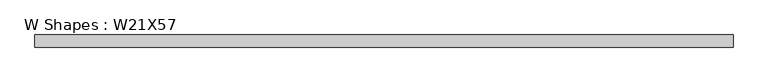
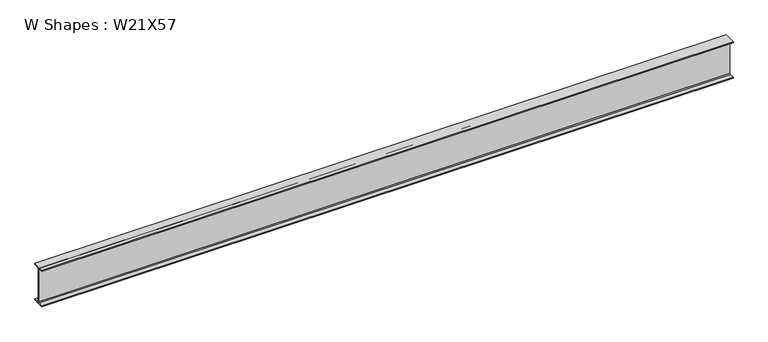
"""IFC4 building model written with IfcOpenShell, lengths in millimetres: beam geometry, W Shapes : W21X57."""

import ifcopenshell
import ifcopenshell.guid

model = None  # the IFC model being written
_history = None  # IfcOwnerHistory: only IFC2X3 demands one
_inside = {}  # id of a spatial element -> (the spatial element, [elements in it])
_under = {}  # id of a project, library or spatial element -> (it, [spatial elements below it])
_declared = {}  # id of a project -> (the project, [libraries it declares])
_typed = {}  # id of a type object -> (the type object, [elements of that type])
_made_of = {}  # id of a material, layer set ... -> (it, [elements and type objects made of it])


def new_model(schema):
    """Start an empty IFC model of exactly this schema.

    Asked for "IFC4X3", IfcOpenShell would pick the latest addendum, in which some entities
    have other attributes; the version numbers below select the first issue.
    IFC2X3 requires an IfcOwnerHistory on every rooted entity: one is made here for all.
    """
    global model, _history
    if schema == "IFC4X3":
        model = ifcopenshell.file(schema_version=(4, 3, 0, 0))
    else:
        model = ifcopenshell.file(schema=schema)
    _inside.clear()
    _under.clear()
    _declared.clear()
    _typed.clear()
    _made_of.clear()
    _history = None
    if model.schema == "IFC2X3":
        org = make("IfcOrganization", Name="unknown")
        user = make(
            "IfcPersonAndOrganization",
            ThePerson=make("IfcPerson", FamilyName="unknown"),
            TheOrganization=org,
        )
        app = make(
            "IfcApplication",
            ApplicationDeveloper=org,
            Version="unknown",
            ApplicationFullName="unknown",
            ApplicationIdentifier="unknown",
        )
        _history = make(
            "IfcOwnerHistory",
            OwningUser=user,
            OwningApplication=app,
            ChangeAction="ADDED",
            CreationDate=0,
        )
    return model


def make(cls, **values):
    """One entity of the class cls with the attributes given. An attribute that is None is left unset."""
    return model.create_entity(
        cls, **{name: value for name, value in values.items() if value is not None}
    )


def rooted(cls, **values):
    """An entity with a GlobalId (a new one), such as an element, a storey or a relation."""
    return make(cls, GlobalId=ifcopenshell.guid.new(), OwnerHistory=_history, **values)


def si_unit(unit_type, name, prefix=None):
    """IfcSIUnit, for example si_unit("LENGTHUNIT", "METRE", prefix="MILLI")."""
    return make("IfcSIUnit", UnitType=unit_type, Prefix=prefix, Name=name)


def assignment(units):
    """IfcUnitAssignment: the units of a project."""
    return None if units is None else make("IfcUnitAssignment", Units=units)


def point(xyz):
    """IfcCartesianPoint."""
    return None if xyz is None else make("IfcCartesianPoint", Coordinates=xyz)


def direction(xyz):
    """IfcDirection."""
    return None if xyz is None else make("IfcDirection", DirectionRatios=xyz)


def frame(location, z_axis=None, x_axis=None):
    """IfcAxis2Placement3D, a coordinate frame: its origin and axes. An axis left out is left unset."""
    return make(
        "IfcAxis2Placement3D",
        Location=point(location),
        Axis=direction(z_axis),
        RefDirection=direction(x_axis),
    )


def frame_2d(location, x_axis=None):
    """IfcAxis2Placement2D, a coordinate frame in the plane: its origin and x axis."""
    return make(
        "IfcAxis2Placement2D", Location=point(location), RefDirection=direction(x_axis)
    )


def origin():
    """The frame at (0, 0, 0) with its axes left unset."""
    return frame((0.0, 0.0, 0.0))


def place(relative_to, where):
    """IfcLocalPlacement: puts the frame where relative to a parent placement (None: the world)."""
    return make(
        "IfcLocalPlacement", PlacementRelTo=relative_to, RelativePlacement=where
    )


def context(
    kind, dimensions, precision=None, world=None, true_north=None, identifier=None
):
    """IfcGeometricRepresentationContext, for example the 3D "Model" context."""
    return make(
        "IfcGeometricRepresentationContext",
        ContextIdentifier=identifier,
        ContextType=kind,
        CoordinateSpaceDimension=dimensions,
        Precision=precision,
        WorldCoordinateSystem=world,
        TrueNorth=true_north,
    )


def project(units=None, contexts=None):
    """IfcProject with its units and contexts."""
    return rooted(
        "IfcProject",
        Name="project",
        RepresentationContexts=contexts,
        UnitsInContext=assignment(units),
    )


def spatial(cls, under=None, at=None, **own):
    """A site, building, storey or space (cls), placed at a placement, below another one or the project."""
    s = rooted(cls, ObjectPlacement=at, **own)
    if under is not None:
        _under.setdefault(under.id(), (under, []))[1].append(s)
    return s


def polyline(points):
    """IfcPolyline through the points."""
    return make("IfcPolyline", Points=[point(p) for p in points])


def circle_curve(where, radius):
    """IfcCircle in the frame where."""
    return make("IfcCircle", Position=where, Radius=radius)


def trimmed(basis, trim1, trim2, sense, master):
    """IfcTrimmedCurve: the piece of a basis curve between two trims."""
    return make(
        "IfcTrimmedCurve",
        BasisCurve=basis,
        Trim1=trim1,
        Trim2=trim2,
        SenseAgreement=sense,
        MasterRepresentation=master,
    )


def segment(curve, same_sense, transition):
    """IfcCompositeCurveSegment."""
    return make(
        "IfcCompositeCurveSegment",
        Transition=transition,
        SameSense=same_sense,
        ParentCurve=curve,
    )


def composite_curve(segments, self_intersect=None):
    """IfcCompositeCurve: segments joined end to end."""
    return make("IfcCompositeCurve", Segments=segments, SelfIntersect=self_intersect)


def outline(outer, holes=None, kind="AREA"):
    """IfcArbitraryClosedProfileDef: a profile drawn as a closed curve; with holes, ...WithVoids."""
    if holes is None:
        return make("IfcArbitraryClosedProfileDef", ProfileType=kind, OuterCurve=outer)
    return make(
        "IfcArbitraryProfileDefWithVoids",
        ProfileType=kind,
        OuterCurve=outer,
        InnerCurves=holes,
    )


def extrude(swept, where, along, depth):
    """IfcExtrudedAreaSolid: the profile swept, set in the frame where, extruded along a direction by depth."""
    return make(
        "IfcExtrudedAreaSolid",
        SweptArea=swept,
        Position=where,
        ExtrudedDirection=direction(along),
        Depth=depth,
    )


def shape(context_of_items, identifier, shape_type, items):
    """IfcShapeRepresentation: the items that make up one representation, for example the "Body"."""
    return make(
        "IfcShapeRepresentation",
        ContextOfItems=context_of_items,
        RepresentationIdentifier=identifier,
        RepresentationType=shape_type,
        Items=items,
    )


def source(mapping_origin, context_of_items, identifier, shape_type, items):
    """IfcRepresentationMap: a shape defined once, which mapped items show again and again."""
    return make(
        "IfcRepresentationMap",
        MappingOrigin=mapping_origin,
        MappedRepresentation=shape(context_of_items, identifier, shape_type, items),
    )


def transform(
    local_origin,
    x_axis=None,
    y_axis=None,
    z_axis=None,
    scale=None,
    scale2=None,
    scale3=None,
    uniform=True,
):
    """IfcCartesianTransformationOperator3D, or its non-uniform kind. x_axis, y_axis, z_axis: its Axis1, 2, 3."""
    if uniform:
        return make(
            "IfcCartesianTransformationOperator3D",
            Axis1=direction(x_axis),
            Axis2=direction(y_axis),
            LocalOrigin=point(local_origin),
            Scale=scale,
            Axis3=direction(z_axis),
        )
    return make(
        "IfcCartesianTransformationOperator3DnonUniform",
        Axis1=direction(x_axis),
        Axis2=direction(y_axis),
        LocalOrigin=point(local_origin),
        Scale=scale,
        Axis3=direction(z_axis),
        Scale2=scale2,
        Scale3=scale3,
    )


def mapped(mapping_source, mapping_target):
    """IfcMappedItem: shows the shape of a source again, moved by a transform."""
    return make(
        "IfcMappedItem", MappingSource=mapping_source, MappingTarget=mapping_target
    )


def made_of(thing, what):
    """Note that an element or type object is made of a material, layer set ...; save() writes the relation."""
    if what is not None:
        _made_of.setdefault(what.id(), (what, []))[1].append(thing)
    return thing


def element(
    cls,
    number,
    at=None,
    inside=None,
    cuts=None,
    type_object=None,
    material=None,
    context=None,
    identifier="Body",
    shape_type=None,
    held_by="IfcProductDefinitionShape",
    body=None,
    shapes=None,
    **own,
):
    """One element of the class cls, such as IfcWall. Its Tag is "e" and its number.

    at: its placement. inside: the storey or other place that contains it. cuts: it is an
    opening in that element (IfcRelVoidsElement). A single representation is given by context,
    identifier, shape_type and body (its items); several are given by shapes. held_by: the class
    of the entity that holds the representations. save() writes the other relations.
    """
    e = rooted(cls, Tag="e%d" % number, ObjectPlacement=at, **own)
    if body is not None:
        shapes = [shape(context, identifier, shape_type, body)]
    if shapes is not None:
        e.Representation = make(held_by, Representations=shapes)
    if inside is not None:
        _inside.setdefault(inside.id(), (inside, []))[1].append(e)
    if cuts is not None:
        rooted(
            "IfcRelVoidsElement", RelatingBuildingElement=cuts, RelatedOpeningElement=e
        )
    if type_object is not None:
        _typed.setdefault(type_object.id(), (type_object, []))[1].append(e)
    return made_of(e, material)


def aggregate(whole, parts):
    """IfcRelAggregates: a whole, such as a stair, and the parts it consists of."""
    return rooted("IfcRelAggregates", RelatingObject=whole, RelatedObjects=parts)


def save(model, path):
    """Write the relations noted so far, then the file.

    IfcRelAggregates (storeys below a building ...), IfcRelContainedInSpatialStructure (elements
    in a storey), IfcRelDefinesByType, IfcRelAssociatesMaterial and IfcRelDeclares: one each for
    every whole, place, type object, material and project.
    """
    for whole, parts in _under.values():
        aggregate(whole, parts)
    for where, things in _inside.values():
        rooted(
            "IfcRelContainedInSpatialStructure",
            RelatedElements=things,
            RelatingStructure=where,
        )
    for kind, things in _typed.values():
        rooted("IfcRelDefinesByType", RelatedObjects=things, RelatingType=kind)
    for what, things in _made_of.values():
        rooted("IfcRelAssociatesMaterial", RelatedObjects=things, RelatingMaterial=what)
    for by, libraries in _declared.values():
        rooted("IfcRelDeclares", RelatingContext=by, RelatedDefinitions=libraries)
    model.write(path)


def w_shapes_w21x57_d6fd00a5(model_context):
    return source(origin(), model_context, "Body", "SweptSolid", [
        extrude(outline(composite_curve([segment(polyline([(83.312, -251.46), (83.312, -267.97), (-83.312, -267.97), (-83.312, -251.46), (-17.907, -251.46)]), True, "CONTINUOUS"), segment(trimmed(circle_curve(frame_2d((-17.907, -238.76)), 12.7), [point((-17.907, -251.46))], [point((-5.207, -238.76))], True, "CARTESIAN"), True, "CONTINUOUS"), segment(polyline([(-5.207, -238.76), (-5.207, 238.76)]), True, "CONTINUOUS"), segment(trimmed(circle_curve(frame_2d((-17.907, 238.76)), 12.7), [point((-5.207, 238.76))], [point((-17.907, 251.46))], True, "CARTESIAN"), True, "CONTINUOUS"), segment(polyline([(-17.907, 251.46), (-83.312, 251.46), (-83.312, 267.97), (83.312, 267.97), (83.312, 251.46), (17.907, 251.46)]), True, "CONTINUOUS"), segment(trimmed(circle_curve(frame_2d((17.907, 238.76)), 12.7), [point((17.907, 251.46))], [point((5.207, 238.76))], True, "CARTESIAN"), True, "CONTINUOUS"), segment(polyline([(5.207, 238.76), (5.207, -238.76)]), True, "CONTINUOUS"), segment(trimmed(circle_curve(frame_2d((17.907, -238.76)), 12.7), [point((5.207, -238.76))], [point((17.907, -251.46))], True, "CARTESIAN"), True, "CONTINUOUS"), segment(polyline([(17.907, -251.46), (83.312, -251.46)]), True, "CONTINUOUS")], self_intersect=False)), frame((-4790.439694, 0.0, 0.0), z_axis=(1.0, 0.0, 0.0), x_axis=(0.0, 1.0, 0.0)), (0.0, 0.0, 1.0), 9580.879388),
    ])


if __name__ == "__main__":
    model = new_model("IFC4")
    model_context = context("Model", 3, world=origin())
    ifc_project = project(units=[si_unit("LENGTHUNIT", "METRE", prefix="MILLI")], contexts=[model_context])
    site = spatial("IfcSite", under=ifc_project)
    building = spatial("IfcBuilding", under=site)
    placement = place(None, origin())
    w_shapes_w21x57_shape = w_shapes_w21x57_d6fd00a5(model_context)
    element("IfcBeam", 1, ObjectType="W Shapes : W21X57", at=placement, inside=building, context=model_context, shape_type="MappedRepresentation", body=[
        mapped(w_shapes_w21x57_shape, transform((0.0, 0.0, 0.0), x_axis=(1.0, 0.0, 0.0), y_axis=(0.0, 1.0, 0.0), z_axis=(0.0, 0.0, 1.0))),
    ])
    save(model, "model.ifc")
